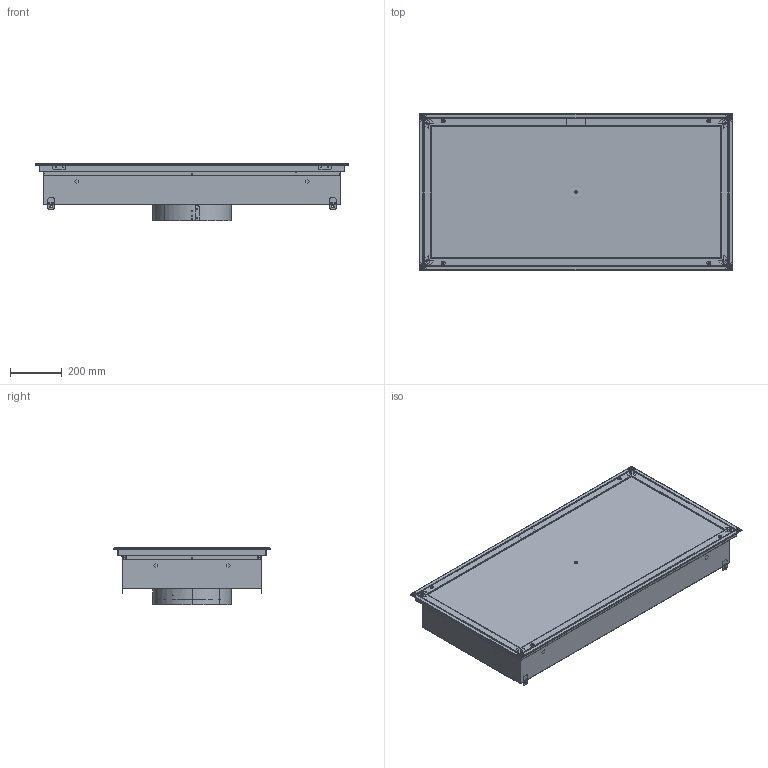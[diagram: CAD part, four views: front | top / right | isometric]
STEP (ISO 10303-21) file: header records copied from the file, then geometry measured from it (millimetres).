
FILE_DESCRIPTION (( 'STEP AP214' ), '1' );
FILE_NAME ('48 X 24_FRD_.STEP', '2025-07-25T18:53:38', ( '' ), ( '' ), 'SwSTEP 2.0', 'SolidWorks 2024', '' );
FILE_SCHEMA (( 'AUTOMOTIVE_DESIGN' ));
Length unit declared in the file: inch
Products named in the file (44): 061325-FRDs_H2E5_L01; 061325-FRDs_H1E2_L01; 061325-FRDs_H1V7_L01_WASHER, TEFLON: 0.50"OD x 0.25"ID x 0.025"th; 061325-FRDs_FC2B20-A2_L01; 061325-FRDs_FC2B-SUB_L01; 061325-FRDs_SM3X4_L01; 061325-FRDs_H1B8_L01; 061325-FRDs_H2E2_L01_WELD CLIP, BOB FRAME; 061325-FRDs_PERF-SUB_L01; 061325-FRDs_FP3B20-A2_L01; 061325-FRDs_H1Z24_L01; 061325-FRDs_H1T3_L01_GROMMET, BLADE; 061325-FRDs_FC2B20-A4_L01; 061325-FRDs_FP3B-SUB_L01; 061325-FRDs_H2G12_L01; 061325-FRDs_P1B1B-SUB_L01; 061325-FRDs_H1F1_L01_1_4 TURN SPRING; 061325-FRDs_SSRD_L01; 061325-FRDs_PLASTER-SUB_L01; 061325-FRDs_FP3B20-A3_L01; 061325-FRDs_P1B1B_L01; 061325-FRDs_H1A2_L01; 061325-FRDs_SAFETYCABLEASSEMBLY-SUB_L01; 061325-FRDs_FP3B20-A4_L01; 061325-FRDs_H1L1_L01; 061325-FRDs_FP3B20-A1_L01; 061325-FRDs_PLENUM-SUB_L01; 061325-FRDs_C1C1C112_L01; 061325-FRDs_H1E3_L01; 061325-FRDs_R2C1-SUB_L01; 061325-FRDs_FC2B20-A1_L01; 061325-FRDs_H1B4_L01; 061325-FRDs_H1N2_L01; 061325-FRDs_FC2B20-A3_L01; 061325-FRDs_K2A2_L01; 061325-FRDs_H2E1_L01_WELD CLIP; 40º BEVEL FRAME; 061325-FRDs_FACE-SUB_L01; 48 X 24_FRD_; 061325-FRDs_H1T2_L01; 061325-FRDs_R2C1_L01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
Assembly tree (72 placements, depth 5):
  48 X 24_FRD_
    061325-FRDs_PLASTER-SUB_L01
      061325-FRDs_FC2B-SUB_L01
        061325-FRDs_FC2B20-A1_L01
        061325-FRDs_FC2B20-A2_L01
        061325-FRDs_FC2B20-A3_L01
        061325-FRDs_FC2B20-A4_L01
        061325-FRDs_H2E2_L01_WELD CLIP, BOB FRAME  x4
        061325-FRDs_H2G12_L01  x4
        061325-FRDs_H1F1_L01_1_4 TURN SPRING  x4
    061325-FRDs_FACE-SUB_L01
      061325-FRDs_FP3B-SUB_L01
        061325-FRDs_FP3B20-A1_L01
        061325-FRDs_FP3B20-A2_L01
        061325-FRDs_FP3B20-A3_L01
        061325-FRDs_FP3B20-A4_L01
        061325-FRDs_H2E1_L01_WELD CLIP; 40º BEVEL FRAME  x4
        061325-FRDs_H1E1_L01  x4
        061325-FRDs_H1E2_L01  x4
        061325-FRDs_SAFETYCABLEASSEMBLY-SUB_L01  x2
          061325-FRDs_H1N2_L01
          061325-FRDs_H1E3_L01
        061325-FRDs_H1Z24_L01
    061325-FRDs_PERF-SUB_L01
      061325-FRDs_H1T2_L01
      061325-FRDs_R2C1-SUB_L01
        061325-FRDs_R2C1_L01
    061325-FRDs_PLENUM-SUB_L01
      061325-FRDs_P1B1B-SUB_L01
        061325-FRDs_P1B1B_L01
        061325-FRDs_H2E5_L01  x4
    061325-FRDs_C1C1C112_L01
    061325-FRDs_SSRD_L01
      061325-FRDs_H1L1_L01  x4
      061325-FRDs_BM5D_L01  x2
      061325-FRDs_SM2X3_L01
      061325-FRDs_SM3X4_L01
      061325-FRDs_H1A2_L01
      061325-FRDs_H1B4_L01
      061325-FRDs_H1V7_L01_WASHER, TEFLON: 0.50"OD x 0.25"ID x 0.025"th  x2
      061325-FRDs_K2A2_L01  x2
      061325-FRDs_H1T3_L01_GROMMET, BLADE  x2
      061325-FRDs_K2A1_L01
      061325-FRDs_H1B8_L01
Bounding box: 1212.85 x 603.25 x 223.61 mm (x, y, z)
Volume: 1900889.2 mm3; surface area: 4610081.3 mm2
Topology: 67 solids, 79 shells, 2450 faces, 6110 edges, 3887 vertices
Faces by surface type: plane 1147, cylinder 884, bspline 193, torus 188, cone 20, sphere 18
Entity records: 56313 total; most frequent: CARTESIAN_POINT 17328, ORIENTED_EDGE 7862, DIRECTION 7635, EDGE_CURVE 3933, AXIS2_PLACEMENT_3D 2661, VERTEX_POINT 2476, LINE 2313, VECTOR 2313
